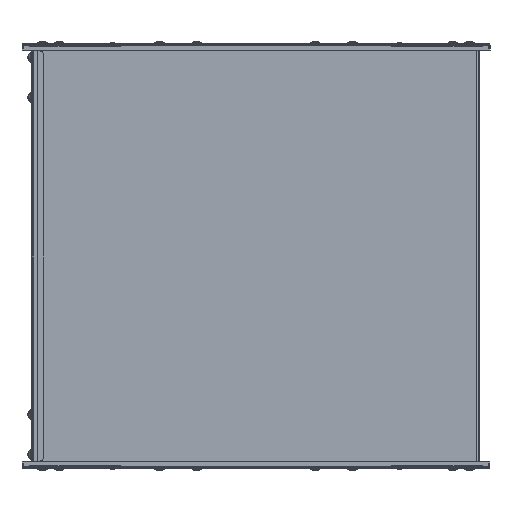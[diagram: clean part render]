
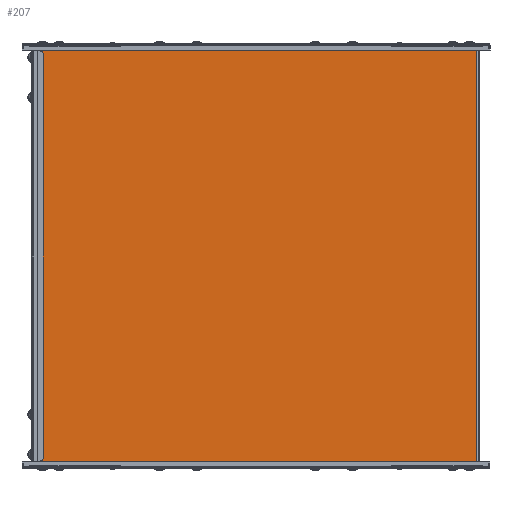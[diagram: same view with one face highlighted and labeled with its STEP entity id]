
A CAD part, left-side view. The second image highlights one B-rep face of the part: STEP entity #207.
In plain terms, the highlighted planar face has unit normal (-1, 0, 0).
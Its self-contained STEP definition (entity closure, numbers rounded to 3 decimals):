
#207 = ADVANCED_FACE ( 'NONE', ( #9964 ), #19900, .F. ) ;
#593 = AXIS2_PLACEMENT_3D ( 'NONE', #19886, #19895, #19897 ) ;
#1782 = CARTESIAN_POINT ( 'NONE',  ( -299.8, 121.9, -177.3 ) ) ;
#1789 = DIRECTION ( 'NONE',  ( 0., 1., 0. ) ) ;
#2620 = CARTESIAN_POINT ( 'NONE',  ( -299.8, 253.9, 177.3 ) ) ;
#2622 = DIRECTION ( 'NONE',  ( 0., -1., 0. ) ) ;
#3811 = EDGE_LOOP ( 'NONE', ( #17669, #17684, #17683, #17686, #17634, #17636, #17685, #17629 ) ) ;
#6068 = CARTESIAN_POINT ( 'NONE',  ( -299.8, 253.9, -177.3 ) ) ;
#6512 = CARTESIAN_POINT ( 'NONE',  ( -299.8, 121.9, 177.3 ) ) ;
#6681 = CARTESIAN_POINT ( 'NONE',  ( -299.8, 121.9, -177.3 ) ) ;
#6902 = CARTESIAN_POINT ( 'NONE',  ( -299.8, 255.4, -177.3 ) ) ;
#7015 = DIRECTION ( 'NONE',  ( 0., -1., 0. ) ) ;
#9964 = FACE_OUTER_BOUND ( 'NONE', #3811, .T. ) ;
#10263 = VECTOR ( 'NONE', #18277, 1000. ) ;
#10274 = LINE ( 'NONE', #18320, #10263 ) ;
#10395 = VECTOR ( 'NONE', #7015, 1000. ) ;
#10397 = LINE ( 'NONE', #6902, #10395 ) ;
#10916 = VECTOR ( 'NONE', #2622, 1000. ) ;
#10919 = LINE ( 'NONE', #2620, #10916 ) ;
#11108 = VERTEX_POINT ( 'NONE', #6681 ) ;
#11386 = VERTEX_POINT ( 'NONE', #17463 ) ;
#11494 = VERTEX_POINT ( 'NONE', #17174 ) ;
#11599 = VERTEX_POINT ( 'NONE', #17122 ) ;
#11654 = VERTEX_POINT ( 'NONE', #17226 ) ;
#11658 = VERTEX_POINT ( 'NONE', #17332 ) ;
#11900 = VERTEX_POINT ( 'NONE', #6068 ) ;
#11987 = VERTEX_POINT ( 'NONE', #6512 ) ;
#12503 = DIRECTION ( 'NONE',  ( 0., 0., 1. ) ) ;
#12506 = CARTESIAN_POINT ( 'NONE',  ( -299.8, 373., -177.3 ) ) ;
#12869 = EDGE_CURVE ( 'NONE', #11658, #11654, #24641, .T. ) ;
#12899 = EDGE_CURVE ( 'NONE', #11900, #11658, #24659, .T. ) ;
#12925 = EDGE_CURVE ( 'NONE', #11599, #11386, #24675, .T. ) ;
#12945 = EDGE_CURVE ( 'NONE', #11987, #11599, #22473, .T. ) ;
#13245 = EDGE_CURVE ( 'NONE', #11108, #11386, #10397, .T. ) ;
#13335 = EDGE_CURVE ( 'NONE', #11494, #11654, #10274, .T. ) ;
#13458 = EDGE_CURVE ( 'NONE', #11494, #11987, #10919, .T. ) ;
#15986 = EDGE_CURVE ( 'NONE', #11108, #11900, #25836, .T. ) ;
#16195 = DIRECTION ( 'NONE',  ( 0., -1., 0. ) ) ;
#16250 = CARTESIAN_POINT ( 'NONE',  ( -299.8, 373., 177.3 ) ) ;
#16269 = DIRECTION ( 'NONE',  ( 0., 0., -1. ) ) ;
#16385 = CARTESIAN_POINT ( 'NONE',  ( -299.8, 0., -177.3 ) ) ;
#16418 = DIRECTION ( 'NONE',  ( 0., 1., 0. ) ) ;
#16493 = CARTESIAN_POINT ( 'NONE',  ( -299.8, 1.2, 0. ) ) ;
#17122 = CARTESIAN_POINT ( 'NONE',  ( -299.8, 1.2, 177.3 ) ) ;
#17174 = CARTESIAN_POINT ( 'NONE',  ( -299.8, 253.9, 177.3 ) ) ;
#17226 = CARTESIAN_POINT ( 'NONE',  ( -299.8, 373., 177.3 ) ) ;
#17332 = CARTESIAN_POINT ( 'NONE',  ( -299.8, 373., -177.3 ) ) ;
#17463 = CARTESIAN_POINT ( 'NONE',  ( -299.8, 1.2, -177.3 ) ) ;
#17629 = ORIENTED_EDGE ( 'NONE', *, *, #13245, .T. ) ;
#17634 = ORIENTED_EDGE ( 'NONE', *, *, #12869, .F. ) ;
#17636 = ORIENTED_EDGE ( 'NONE', *, *, #12899, .F. ) ;
#17669 = ORIENTED_EDGE ( 'NONE', *, *, #12925, .F. ) ;
#17683 = ORIENTED_EDGE ( 'NONE', *, *, #13458, .F. ) ;
#17684 = ORIENTED_EDGE ( 'NONE', *, *, #12945, .F. ) ;
#17685 = ORIENTED_EDGE ( 'NONE', *, *, #15986, .F. ) ;
#17686 = ORIENTED_EDGE ( 'NONE', *, *, #13335, .T. ) ;
#18277 = DIRECTION ( 'NONE',  ( 0., 1., 0. ) ) ;
#18320 = CARTESIAN_POINT ( 'NONE',  ( -299.8, 255.4, 177.3 ) ) ;
#19886 = CARTESIAN_POINT ( 'NONE',  ( -299.8, 0., 0. ) ) ;
#19895 = DIRECTION ( 'NONE',  ( 1., 0., 0. ) ) ;
#19897 = DIRECTION ( 'NONE',  ( 0., -1., 0. ) ) ;
#19900 = PLANE ( 'NONE',  #593 ) ;
#22469 = VECTOR ( 'NONE', #16195, 1000. ) ;
#22473 = LINE ( 'NONE', #16250, #22469 ) ;
#24286 = VECTOR ( 'NONE', #16418, 1000. ) ;
#24599 = VECTOR ( 'NONE', #12503, 1000. ) ;
#24641 = LINE ( 'NONE', #12506, #24599 ) ;
#24655 = VECTOR ( 'NONE', #16269, 1000. ) ;
#24659 = LINE ( 'NONE', #16385, #24286 ) ;
#24675 = LINE ( 'NONE', #16493, #24655 ) ;
#25832 = VECTOR ( 'NONE', #1789, 1000. ) ;
#25836 = LINE ( 'NONE', #1782, #25832 ) ;
